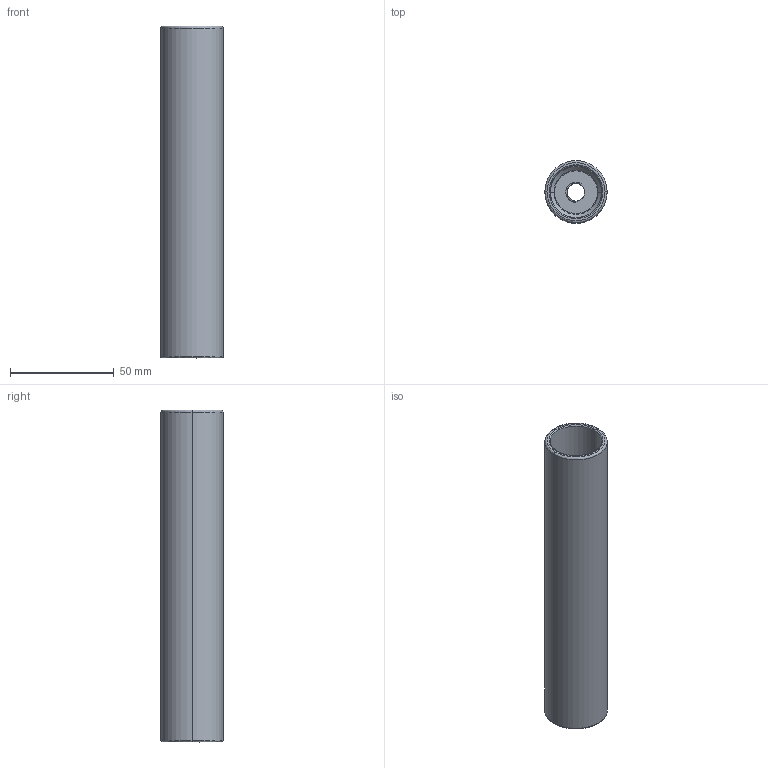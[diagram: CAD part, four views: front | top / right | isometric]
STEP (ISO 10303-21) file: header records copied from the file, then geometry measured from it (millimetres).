
FILE_DESCRIPTION( ( 'STEP AP203' ), '1' );
FILE_NAME( 'D:/Delta 3 D/D40/D40 - 30x160.step', '2002-12-31T23:09:04', ( ' ' ), ( ' ' ), 'XStep 1.0', ' ', ' ' );
FILE_SCHEMA( ( 'CONFIG_CONTROL_DESIGN' ) );
Length unit declared in the file: metre
Products named in the file (1): 1
Bounding box: 30 x 30 x 160 mm (x, y, z)
Surface area: 28439.4 mm2 (no closed solid volume)
Topology: 0 solids, 61 shells, 61 faces, 320 edges, 320 vertices
Faces by surface type: revolution 46, bspline 15
Entity records: 5527 total; most frequent: CARTESIAN_POINT 3629, ORIENTED_EDGE 320, EDGE_CURVE 320, VERTEX_POINT 320, DIRECTION 248, LINE 88, VECTOR 88, B_SPLINE_CURVE_WITH_KNOTS 68
